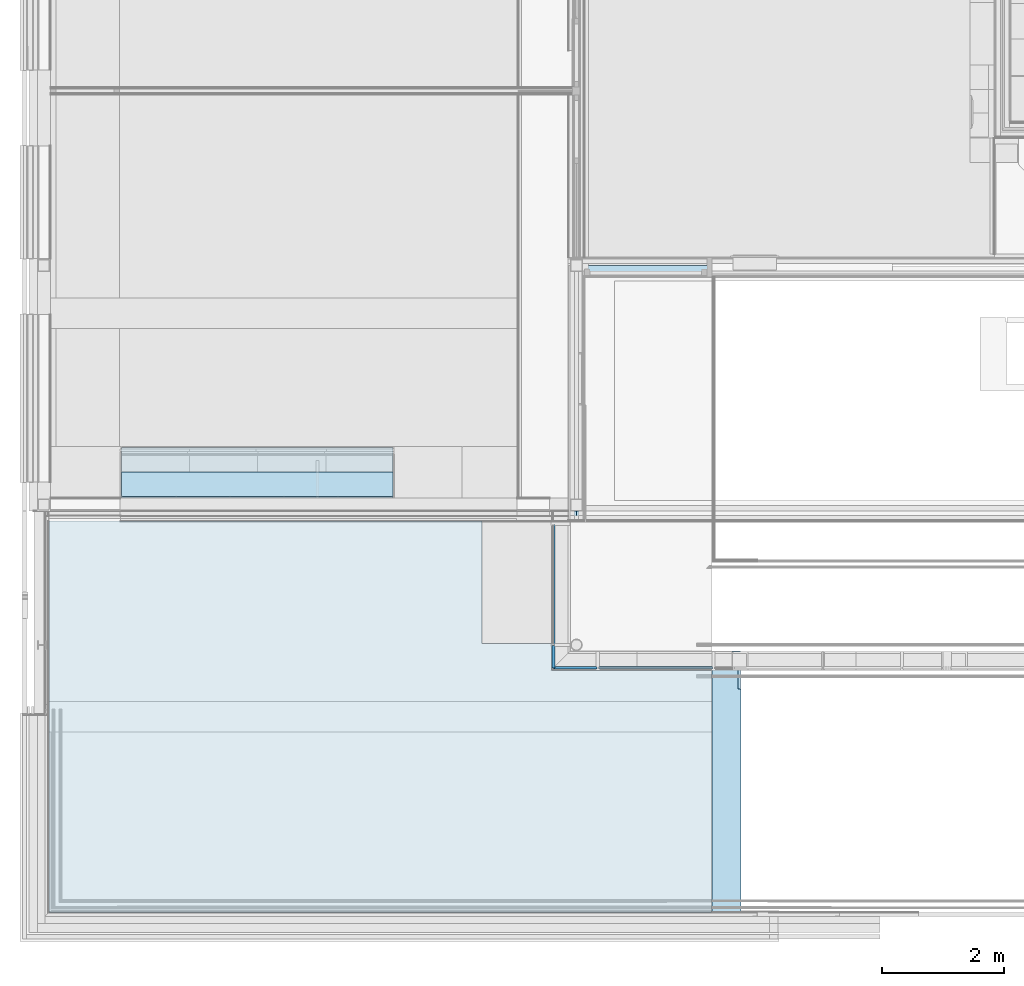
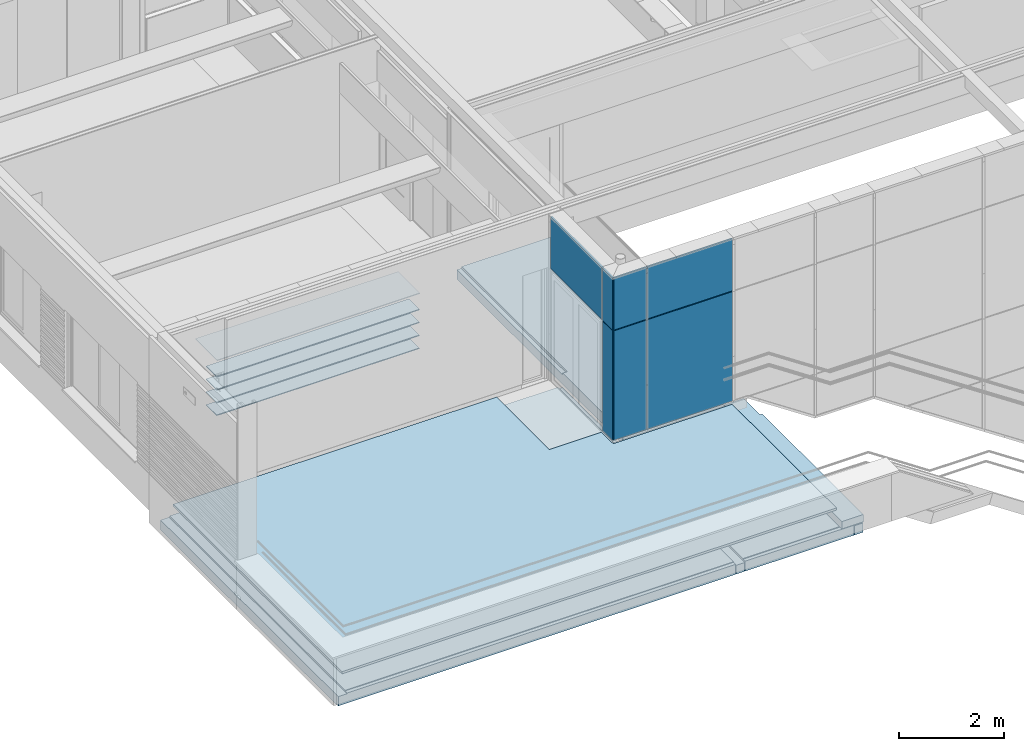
# One storey, part 35 of 137: 9 slabs, 7 plates, 1 element without a shape of its own.
"""IFC2X3 building model written with IfcOpenShell, lengths in millimetres."""

from ifc_helpers import new_model, entity, si_unit, converted_unit, derived_unit, money_unit, direction, frame, origin_with_axes, place, context, subcontext, project, spatial, faceted_brep, material, type_object, element, aggregate, save


model = new_model("IFC2X3")

# Units and contexts
model_context = context("Model", 3, precision=0.01, world=origin_with_axes(), true_north=direction((0.0, 1.0)))
body_context = subcontext(model_context, "Body", "Model", "MODEL_VIEW")
ifc_project = project(units=[si_unit("LENGTHUNIT", "METRE", prefix="MILLI"), si_unit("AREAUNIT", "SQUARE_METRE"), si_unit("VOLUMEUNIT", "CUBIC_METRE"), converted_unit("PLANEANGLEUNIT", "DEGREE", entity("IfcPlaneAngleMeasure", 0.0174532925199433), si_unit("PLANEANGLEUNIT", "RADIAN"), dimensions=[0, 0, 0, 0, 0, 0, 0]), money_unit("EUR"), converted_unit("TIMEUNIT", "Year", entity("IfcTimeMeasure", 31556926.0), si_unit("TIMEUNIT", "SECOND"), dimensions=[0, 0, 1, 0, 0, 0, 0]), si_unit("MASSUNIT", "GRAM", prefix="KILO"), si_unit("THERMODYNAMICTEMPERATUREUNIT", "DEGREE_CELSIUS"), si_unit("LUMINOUSINTENSITYUNIT", "LUMEN"), si_unit("ENERGYUNIT", "JOULE", prefix="MEGA"), derived_unit("THERMALCONDUCTANCEUNIT", [(si_unit("POWERUNIT", "WATT"), 1), (si_unit("LENGTHUNIT", "METRE"), -1), (si_unit("THERMODYNAMICTEMPERATUREUNIT", "KELVIN"), -1)]), derived_unit("SPECIFICHEATCAPACITYUNIT", [(si_unit("ENERGYUNIT", "JOULE"), 1), (si_unit("MASSUNIT", "GRAM", prefix="KILO"), -1), (si_unit("THERMODYNAMICTEMPERATUREUNIT", "KELVIN"), -1)]), derived_unit("MASSDENSITYUNIT", [(si_unit("MASSUNIT", "GRAM", prefix="KILO"), 1), (si_unit("VOLUMEUNIT", "CUBIC_METRE"), -1)])], contexts=[model_context])

# Site, building, storey
site_placement = place(None, origin_with_axes())
site = spatial("IfcSite", under=ifc_project, at=site_placement, Name="Site", CompositionType="ELEMENT")
building_placement = place(site_placement, origin_with_axes())
building = spatial("IfcBuilding", under=site, at=building_placement, Name="Naam gebouw", CompositionType="ELEMENT")
storey_placement = place(building_placement, frame((0.0, 0.0, 3960.0), z_axis=(0.0, 0.0, 1.0), x_axis=(1.0, 0.0, 0.0)))
storey = spatial("IfcBuildingStorey", under=building, at=storey_placement, Name="1e verdieping", CompositionType="ELEMENT", Elevation=3960.0)

# Slabs
ifc_material_1 = material(Name="Beton gewapend prefab vloer")
slab_type_1 = type_object("IfcSlabType", Name="23 Kanaalplaat 260 260", PredefinedType="NOTDEFINED")
slab_1_placement = place(storey_placement, frame((6.893856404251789e-08, 6779.999999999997, -389.9999999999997), z_axis=(0.0, 0.0, 1.0), x_axis=(1.0, 0.0, 0.0)))
element("IfcSlab", 1, at=slab_1_placement, inside=storey, type_object=slab_type_1, material=ifc_material_1, Name="_Vloer-x", PredefinedType="NOTDEFINED", context=body_context, shape_type="Brep", body=[
    faceted_brep([(194.9999999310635, 0.0, -30.00000000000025), (194.9999999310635, 0.0, -259.9999999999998), (4.999999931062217, 0.0, -259.9999999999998), (4.999999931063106, 0.0, -30.00000000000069), (194.999999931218, -6690.000000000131, -246.0000000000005), (194.999999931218, -6690.000000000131, -260.0000000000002), (194.9999999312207, -6770.000000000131, -30.00000000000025), (194.9999999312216, -6770.000000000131, -246.0000000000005), (4.999999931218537, -6690.000000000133, -260.0000000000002), (4.999999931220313, -6770.000000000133, -246.0000000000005), (4.999999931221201, -6770.000000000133, -30.00000000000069), (4.999999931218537, -6690.000000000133, -246.0000000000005)], [[[0, 1, 2, 3]], [[4, 5, 1, 0, 6, 7]], [[1, 5, 8, 2]], [[9, 10, 3, 2, 8, 11]], [[10, 6, 0, 3]], [[5, 4, 11, 8]], [[7, 6, 10, 9]], [[4, 7, 9, 11]]]),
    faceted_brep([(8952.999999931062, -2299.999999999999, 0.0), (8952.999999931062, -6690.000000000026, 0.0), (11348.99999993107, -6689.999999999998, 0.0), (11348.99999993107, -2300.000000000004, 4.341762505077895e-07), (8952.999999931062, -6770.000000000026, -14.00000000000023), (8952.999999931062, -6690.000000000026, -14.00000000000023), (8952.999999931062, -2299.999999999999, -259.9999999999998), (8952.999999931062, -6690.000000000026, -260.0000000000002), (8952.999999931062, -6690.000000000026, -246.0000000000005), (8952.999999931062, -6770.000000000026, -246.0000000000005), (11348.99999993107, -6689.999999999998, -14.00000000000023), (11348.99999993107, -6689.999999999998, -246.0000000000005), (11348.99999993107, -6689.999999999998, -260.0000000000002), (11348.99999993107, -2300.000000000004, -259.9999999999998), (11348.99999993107, -6769.999999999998, -14.00000000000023), (11348.99999993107, -6769.999999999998, -246.0000000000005)], [[[0, 1, 2, 3]], [[4, 5, 1, 0, 6, 7, 8, 9]], [[1, 5, 10, 2]], [[11, 12, 13, 3, 2, 10, 14, 15]], [[6, 0, 3, 13]], [[5, 4, 14, 10]], [[7, 6, 13, 12]], [[8, 7, 12, 11]], [[9, 8, 11, 15]], [[4, 9, 15, 14]]]),
    faceted_brep([(11544.99999993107, -2300.000000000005, -29.99999954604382), (11544.99999993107, -2300.000000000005, -259.9999999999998), (11354.99999993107, -2300.000000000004, -259.9999999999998), (11354.99999993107, -2300.000000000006, -29.99999954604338), (11544.99999993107, -6689.999999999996, -246.0000000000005), (11544.99999993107, -6689.999999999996, -260.0000000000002), (11544.99999993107, -6769.999999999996, -29.99999954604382), (11544.99999993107, -6769.999999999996, -246.0000000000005), (11354.99999993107, -6689.999999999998, -260.0000000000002), (11354.99999993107, -6769.999999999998, -246.0000000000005), (11354.99999993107, -6769.999999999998, -29.99999954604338), (11354.99999993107, -6689.999999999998, -246.0000000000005)], [[[0, 1, 2, 3]], [[4, 5, 1, 0, 6, 7]], [[1, 5, 8, 2]], [[9, 10, 3, 2, 8, 11]], [[10, 6, 0, 3]], [[5, 4, 11, 8]], [[7, 6, 10, 9]], [[4, 7, 9, 11]]]),
    faceted_brep([(8944.999999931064, -6770.000000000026, -229.9999977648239), (8944.999999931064, -6579.999999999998, -229.9999977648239), (8944.999999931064, -6579.999999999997, -260.0000000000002), (8944.999999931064, -2299.999999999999, -259.9999999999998), (8944.999999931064, -2299.999999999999, -40.00000000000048), (8944.999999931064, -6770.000000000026, -40.00000000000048), (8754.99999993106, -6579.999999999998, -229.9999977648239), (8939.99999993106, -6769.999999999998, -229.9999977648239), (8939.99999993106, -6589.999999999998, -229.9999977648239), (8759.99999993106, -6589.999999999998, -229.9999977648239), (8759.99999993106, -6769.999999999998, -229.9999977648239), (8754.999999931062, -6770.00000000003, -229.9999977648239), (8754.999999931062, -6579.999999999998, -260.0000000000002), (8754.999999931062, 0.0, -259.9999999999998), (8850.000073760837, 0.0, -259.9999999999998), (8850.000073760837, -2300.000000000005, -259.9999999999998), (8850.000073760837, -2299.999999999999, -39.99999776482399), (8850.000073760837, 0.0, -39.99999776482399), (8754.99999993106, 0.0, -39.99999776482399), (8754.999999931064, -6770.00000000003, -40.00000000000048), (8939.99999993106, -6769.999999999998, -246.0000000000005), (8759.99999993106, -6769.999999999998, -246.0000000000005), (8939.99999993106, -6690.000000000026, -246.0000000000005), (8939.99999993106, -6690.000000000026, -260.0000000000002), (8939.99999993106, -6589.999999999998, -259.9999999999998), (8759.99999993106, -6589.999999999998, -259.9999999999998), (8759.99999993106, -6690.00000000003, -260.0000000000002), (8759.99999993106, -6690.00000000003, -246.0000000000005)], [[[0, 1, 2, 3, 4, 5]], [[6, 1, 0, 7, 8, 9, 10, 11]], [[12, 2, 1, 6]], [[3, 2, 12, 13, 14, 15]], [[15, 16, 4, 3]], [[5, 4, 16, 17, 18, 19]], [[20, 7, 0, 5, 19, 11, 10, 21]], [[22, 23, 24, 8, 7, 20]], [[8, 24, 25, 9]], [[9, 25, 26, 27, 21, 10]], [[12, 6, 11, 19, 18, 13]], [[17, 14, 13, 18]], [[15, 14, 17, 16]], [[27, 22, 20, 21]], [[26, 23, 22, 27]], [[25, 24, 23, 26]]]),
    faceted_brep([(8746.999999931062, 0.0, 2.23517604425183e-06), (8746.999999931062, 0.0, -259.9999999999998), (200.9999999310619, 0.0, -259.9999999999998), (200.9999999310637, 0.0, 0.0), (8746.999999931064, -6690.00000000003, -246.0000000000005), (8746.999999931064, -6690.00000000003, -260.0000000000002), (8746.999999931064, -6690.00000000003, 0.0), (8746.999999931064, -6690.00000000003, -14.00000000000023), (8746.999999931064, -6770.00000000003, -14.00000000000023), (8746.999999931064, -6770.00000000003, -246.0000000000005), (200.9999999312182, -6690.000000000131, -260.0000000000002), (200.9999999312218, -6770.000000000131, -14.00000000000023), (200.9999999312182, -6690.000000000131, -14.00000000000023), (200.9999999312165, -6690.000000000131, 0.0), (200.9999999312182, -6690.000000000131, -246.0000000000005), (200.9999999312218, -6770.000000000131, -246.0000000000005)], [[[0, 1, 2, 3]], [[4, 5, 1, 0, 6, 7, 8, 9]], [[1, 5, 10, 2]], [[11, 12, 13, 3, 2, 10, 14, 15]], [[6, 0, 3, 13]], [[5, 4, 14, 10]], [[7, 6, 13, 12]], [[8, 7, 12, 11]], [[9, 8, 11, 15]], [[4, 9, 15, 14]]]),
])
ifc_material_2 = material(Name="Hout - Multiplex")
slab_type_2 = type_object("IfcSlabType", Name="Hout - Multiplex 20", PredefinedType="NOTDEFINED")
slab_2_placement = place(storey_placement, frame((5834.000000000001, 7820.99966167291, 2689.999999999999), z_axis=(0.0, 0.0, 1.0), x_axis=(1.0, 0.0, 0.0)))
element("IfcSlab", 2, at=slab_2_placement, inside=storey, type_object=slab_type_2, material=ifc_material_2, Name="i4 In lagen verlijmd hout_Vloer-x", PredefinedType="NOTDEFINED", context=body_context, shape_type="Brep", body=[
    faceted_brep([(0.0, 0.0, 0.0), (0.0, 0.0, -19.99999999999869), (-4460.000000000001, 0.0, -19.99999999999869), (-4460.000000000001, 0.0, 0.0), (0.0, -825.0000000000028, 0.0), (0.0, -825.0000000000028, -19.99999999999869), (-4460.000000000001, -825.0000000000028, -19.99999999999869), (-4460.000000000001, -825.0000000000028, 0.0)], [[[0, 1, 2, 3]], [[4, 5, 1, 0]], [[2, 1, 5, 6]], [[3, 2, 6, 7]], [[4, 0, 3, 7]], [[7, 6, 5, 4]]]),
])
slab_3_placement = place(storey_placement, frame((5833.999999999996, 7415.999661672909, 1699.999999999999), z_axis=(0.0, 0.0, 1.0), x_axis=(1.0, 0.0, 0.0)))
element("IfcSlab", 3, at=slab_3_placement, inside=storey, type_object=slab_type_2, material=ifc_material_2, Name="i4 In lagen verlijmd hout_Vloer-x", PredefinedType="NOTDEFINED", context=body_context, shape_type="Brep", body=[
    faceted_brep([(0.0, 0.0, 0.0), (0.0, 0.0, -19.99999999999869), (-4460.000000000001, 0.0, -19.99999999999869), (-4460.000000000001, 0.0, 0.0), (0.0, -400.0000000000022, 0.0), (0.0, -400.0000000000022, -19.99999999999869), (-4460.000000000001, -400.0000000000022, -19.99999999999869), (-4460.000000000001, -400.0000000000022, 0.0)], [[[0, 1, 2, 3]], [[4, 5, 1, 0]], [[2, 1, 5, 6]], [[3, 2, 6, 7]], [[4, 0, 3, 7]], [[7, 6, 5, 4]]]),
])
for number, where, z_axis, x_axis in (
    (4, (5833.999999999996, 7415.999661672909, 2300.0), (0.0, 0.0, 1.0), (1.0, 0.0, 0.0)),
    (5, (5833.999999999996, 7415.999661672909, 1400.0), (0.0, 0.0, 1.0), (1.0, 0.0, 0.0)),
):
    element("IfcSlab", number, at=place(storey_placement, frame(where, z_axis=z_axis, x_axis=x_axis)), inside=storey, type_object=slab_type_2, material=ifc_material_2, Name="i4 In lagen verlijmd hout_Vloer-x", PredefinedType="NOTDEFINED", context=body_context, shape_type="Brep", body=[
        faceted_brep([(0.0, 0.0, 0.0), (0.0, 0.0, -19.99999999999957), (-4460.000000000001, 0.0, -19.99999999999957), (-4460.000000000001, 0.0, 0.0), (0.0, -400.0000000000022, 0.0), (0.0, -400.0000000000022, -19.99999999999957), (-4460.000000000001, -400.0000000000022, -19.99999999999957), (-4460.000000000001, -400.0000000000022, 0.0)], [[[0, 1, 2, 3]], [[4, 5, 1, 0]], [[2, 1, 5, 6]], [[3, 2, 6, 7]], [[4, 0, 3, 7]], [[7, 6, 5, 4]]]),
    ])
slab_4_placement = place(storey_placement, frame((5833.999999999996, 7415.999661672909, 1999.999999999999), z_axis=(0.0, 0.0, 1.0), x_axis=(1.0, 0.0, 0.0)))
element("IfcSlab", 6, at=slab_4_placement, inside=storey, type_object=slab_type_2, material=ifc_material_2, Name="i4 In lagen verlijmd hout_Vloer-x", PredefinedType="NOTDEFINED", context=body_context, shape_type="Brep", body=[
    faceted_brep([(0.0, 0.0, 0.0), (0.0, 0.0, -19.99999999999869), (-4460.000000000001, 0.0, -19.99999999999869), (-4460.000000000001, 0.0, 0.0), (0.0, -400.0000000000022, 0.0), (0.0, -400.0000000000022, -19.99999999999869), (-4460.000000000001, -400.0000000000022, -19.99999999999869), (-4460.000000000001, -400.0000000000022, 0.0)], [[[0, 1, 2, 3]], [[4, 5, 1, 0]], [[2, 1, 5, 6]], [[3, 2, 6, 7]], [[4, 0, 3, 7]], [[7, 6, 5, 4]]]),
])
ifc_material_3 = material(Name="Beton C")
slab_type_3 = type_object("IfcSlabType", Name="Beton C 50", PredefinedType="NOTDEFINED")
slab_5_placement = place(storey_placement, frame((186.0000000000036, 6611.999999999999, -10.00000000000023), z_axis=(0.0, 0.0, 1.0), x_axis=(1.0, 0.0, 0.0)))
element("IfcSlab", 7, at=slab_5_placement, inside=storey, type_object=slab_type_3, material=ifc_material_3, Name="f2- Met cement gebonden producten (alle vulmiddelen)_Vloer-x", PredefinedType="NOTDEFINED", context=body_context, shape_type="Brep", body=[
    faceted_brep([(0.0, 0.0, 0.0), (0.0, 0.0, -49.99999999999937), (0.0, -6425.999999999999, -49.99999999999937), (0.0, -6425.999999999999, 0.0), (7114.013310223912, 0.0, 0.0), (7114.013310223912, 0.0, -49.99999999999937), (7114.013310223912, -2007.315386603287, -49.99999999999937), (8262.149999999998, -2007.315386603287, -49.99999999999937), (8262.149999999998, -2448.999999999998, -49.99999999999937), (10878.99993002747, -2448.999999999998, -49.99999999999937), (10878.99993002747, -6425.999999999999, -49.99999999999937), (10878.99993002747, -6425.999999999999, 0.0), (10878.99993002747, -2448.999999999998, 0.0), (8262.149999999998, -2448.999999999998, 0.0), (8262.149999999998, -2007.315386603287, 0.0), (7114.013310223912, -2007.315386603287, 0.0)], [[[0, 1, 2, 3]], [[4, 5, 1, 0]], [[2, 1, 5, 6, 7, 8, 9, 10]], [[3, 2, 10, 11]], [[4, 0, 3, 11, 12, 13, 14, 15]], [[15, 6, 5, 4]], [[14, 7, 6, 15]], [[13, 8, 7, 14]], [[12, 9, 8, 13]], [[11, 10, 9, 12]]]),
])
ifc_material_4 = material(Name="Isolatie - Kunststof hard")
slab_type_4 = type_object("IfcSlabType", Name="Isolatie - Kunststof hard 170", PredefinedType="NOTDEFINED")
slab_6_placement = place(storey_placement, frame((11550.00000000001, 0.0, -389.9999999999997), z_axis=(0.0, 0.0, 1.0), x_axis=(1.0, 0.0, 0.0)))
element("IfcSlab", 8, at=slab_6_placement, inside=storey, type_object=slab_type_4, material=ifc_material_4, Name="n7 Kunststof met cellenstructuur_Vloer-x", PredefinedType="NOTDEFINED", context=body_context, shape_type="Brep", body=[
    faceted_brep([(0.0, 3854.000000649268, 0.0), (0.0, 3854.000000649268, 169.9999999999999), (0.0, 0.0, 169.9999999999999), (0.0, 0.0, 0.0), (-47.75988115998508, 3854.000000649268, 0.0), (-47.75988115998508, 3854.000000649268, 169.9999999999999), (-47.75988115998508, 4480.00000000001, 169.9999999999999), (-475.0001426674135, 4480.00000000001, 169.9999999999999), (-475.0001426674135, 0.0, 169.9999999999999), (-475.0001426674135, 0.0, 0.0), (-47.75988115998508, 4480.00000000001, 0.0), (-475.0001426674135, 4480.00000000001, 0.0)], [[[0, 1, 2, 3]], [[4, 5, 1, 0]], [[6, 7, 8, 2, 1, 5]], [[3, 2, 8, 9]], [[10, 4, 0, 3, 9, 11]], [[10, 6, 5, 4]], [[11, 7, 6, 10]], [[9, 8, 7, 11]]]),
])
slab_type_5 = type_object("IfcSlabType", Name="Beton gewapend prefab vloer 260", PredefinedType="NOTDEFINED")
slab_7_placement = place(storey_placement, frame((11075.04559255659, 10810.00011055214, -99.99999999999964), z_axis=(0.0, 0.0, 1.0), x_axis=(1.0, 0.0, 0.0)))
element("IfcSlab", 9, at=slab_7_placement, inside=storey, type_object=slab_type_5, material=ifc_material_1, Name="_Vloer-x", PredefinedType="NOTDEFINED", context=body_context, shape_type="Brep", body=[
    faceted_brep([(-2169.808089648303, -6293.747587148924, 0.0), (-2154.085857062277, -6275.603163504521, 0.0), (-2144.112360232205, -6253.764251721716, 0.0), (-2140.695592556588, -6230.000110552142, 0.0), (-2144.112360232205, -6206.235969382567, 0.0), (-2154.085857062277, -6184.397057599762, 0.0), (-2169.808089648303, -6166.252633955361, 0.0), (-2190.005336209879, -6153.272651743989, 0.0), (-2213.041335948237, -6146.508671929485, 0.0), (-2225.04551879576, -6146.508671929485, 0.0), (-2225.04551879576, -6313.491549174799, 0.0), (-2213.041335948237, -6313.491549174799, 0.0), (-2190.005336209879, -6306.727569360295, 0.0), (-2154.085857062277, -6275.603163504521, -260.0000000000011), (-2169.808089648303, -6293.747587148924, -260.0000000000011), (-2144.112360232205, -6253.764251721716, -260.0000000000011), (-2140.695592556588, -6230.000110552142, -260.0000000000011), (-2144.112360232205, -6206.235969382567, -260.0000000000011), (-2154.085857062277, -6184.397057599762, -260.0000000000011), (-2169.808089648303, -6166.252633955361, -260.0000000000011), (-2190.005336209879, -6153.272651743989, -260.0000000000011), (-2213.041335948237, -6146.508671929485, -260.0000000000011), (-2225.04551879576, -6146.508671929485, -260.0000000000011), (-2225.04551879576, -6313.491549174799, -260.0000000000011), (-2213.041335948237, -6313.491549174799, -260.0000000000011), (-2190.005336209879, -6306.727569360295, -260.0000000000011)], [[[0, 1, 2, 3, 4, 5, 6, 7, 8, 9, 10, 11, 12]], [[13, 1, 0, 14]], [[15, 2, 1, 13]], [[16, 3, 2, 15]], [[17, 4, 3, 16]], [[18, 5, 4, 17]], [[19, 6, 5, 18]], [[20, 7, 6, 19]], [[21, 8, 7, 20]], [[22, 9, 8, 21]], [[22, 23, 10, 9]], [[24, 11, 10, 23]], [[25, 12, 11, 24]], [[14, 0, 12, 25]], [[25, 24, 23, 22, 21, 20, 19, 18, 17, 16, 15, 13, 14]]]),
    faceted_brep([(-2161.622330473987, -6156.805764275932, 0.0), (-2143.570187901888, -6177.639047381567, 0.0), (-2132.118698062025, -6202.714312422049, 0.0), (-2128.195592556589, -6230.000110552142, 0.0), (-2132.118698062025, -6257.285908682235, 0.0), (-2143.570187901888, -6282.361173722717, 0.0), (-2161.622330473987, -6303.194456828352, 0.0), (-2184.812648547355, -6318.097969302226, 0.0), (-2211.26240046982, -6325.86431719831, 0.0), (-2225.04551879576, -6325.86431719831, 0.0), (-2225.04551879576, -6330.000110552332, 0.0), (-90.00000000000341, -6330.000110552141, 0.0), (-89.99999999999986, 0.0, 0.0), (-2122.045592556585, 0.0, 0.0), (-2122.045592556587, -4030.000110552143, 0.0), (-2225.045518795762, -4030.000110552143, 0.0), (-2225.04551879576, -6134.135903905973, 0.0), (-2211.26240046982, -6134.135903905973, 0.0), (-2184.812648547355, -6141.902251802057, 0.0), (-2143.570187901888, -6177.639047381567, -260.0000000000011), (-2161.622330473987, -6156.805764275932, -260.0000000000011), (-2132.118698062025, -6202.714312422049, -260.0000000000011), (-2128.195592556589, -6230.000110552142, -260.0000000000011), (-2132.118698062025, -6257.285908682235, -260.0000000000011), (-2143.570187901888, -6282.361173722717, -260.0000000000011), (-2161.622330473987, -6303.194456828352, -260.0000000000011), (-2184.812648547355, -6318.097969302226, -260.0000000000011), (-2211.26240046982, -6325.86431719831, -260.0000000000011), (-2225.04551879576, -6325.86431719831, -260.0000000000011), (-2225.04551879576, -6330.000110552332, -260.0000000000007), (-10.00000000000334, -6330.000110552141, -214.9999999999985), (-2122.045592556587, -6330.000110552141, -214.9999999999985), (-2122.045592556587, -6330.000110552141, -14.99999999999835), (-10.00000000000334, -6330.000110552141, -14.99999999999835), (-10.00000000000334, -6330.000110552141, -14.00000000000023), (-90.00000000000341, -6330.000110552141, -14.00000000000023), (-90.00000000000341, -6330.000110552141, -260.0000000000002), (-90.00000000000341, -6330.000110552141, -246.0000000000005), (-10.00000000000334, -6330.000110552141, -246.0000000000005), (-89.99999999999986, 0.0, -14.00000000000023), (-89.99999999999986, 0.0, -246.0000000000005), (-89.99999999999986, 0.0, -260.0000000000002), (-2122.045592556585, 0.0, -260.0000000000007), (-9.999999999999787, 0.0, -14.00000000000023), (-9.999999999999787, 0.0, -246.0000000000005), (-2122.045592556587, -4030.000110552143, -260.0000000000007), (-2130.045592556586, -4030.000110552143, -40.00000000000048), (-2225.045518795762, -4030.000110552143, -40.00000000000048), (-2130.045592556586, -4030.000110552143, -260.0000000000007), (-2225.045518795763, 0.0, -260.0000000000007), (-2225.04551879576, -6134.135903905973, -260.0000000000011), (-2225.045518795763, 0.0, -40.00000000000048), (-2211.26240046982, -6134.135903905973, -260.0000000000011), (-2184.812648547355, -6141.902251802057, -260.0000000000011), (-2130.045592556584, 0.0, -260.0000000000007), (-2122.045592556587, -6230.000110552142, -214.9999999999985), (-10.00000000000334, -6230.000110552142, -214.9999999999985), (-2122.045592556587, -6320.000110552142, -204.9999999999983), (-2122.045592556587, -6320.000110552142, -14.99999999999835), (-2122.045592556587, -6230.000110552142, -204.9999999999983), (-10.00000000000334, -6320.000110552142, -14.99999999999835), (-10.00000000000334, -6320.000110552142, -204.9999999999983), (-10.00000000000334, -6230.000110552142, -204.9999999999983), (-2130.045592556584, 0.0, -40.00000000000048)], [[[0, 1, 2, 3, 4, 5, 6, 7, 8, 9, 10, 11, 12, 13, 14, 15, 16, 17, 18]], [[19, 1, 0, 20]], [[21, 2, 1, 19]], [[22, 3, 2, 21]], [[23, 4, 3, 22]], [[24, 5, 4, 23]], [[25, 6, 5, 24]], [[26, 7, 6, 25]], [[27, 8, 7, 26]], [[28, 9, 8, 27]], [[10, 9, 28, 29]], [[30, 31, 32, 33, 34, 35, 11, 10, 29, 36, 37, 38]], [[11, 35, 39, 12]], [[40, 41, 42, 13, 12, 39, 43, 44]], [[45, 14, 13, 42]], [[46, 47, 15, 14, 45, 48]], [[49, 50, 16, 15, 47, 51]], [[52, 17, 16, 50]], [[53, 18, 17, 52]], [[20, 0, 18, 53]], [[53, 52, 50, 49, 54, 48, 45, 42, 41, 36, 29, 28, 27, 26, 25, 24, 23, 22, 21, 19, 20]], [[55, 31, 30, 56]], [[57, 58, 32, 31, 55, 59]], [[32, 58, 60, 33]], [[34, 33, 60, 61, 62, 56, 30, 38, 44, 43]], [[35, 34, 43, 39]], [[37, 36, 41, 40]], [[38, 37, 40, 44]], [[47, 46, 63, 51]], [[46, 48, 54, 63]], [[49, 51, 63, 54]], [[59, 55, 56, 62]], [[58, 57, 61, 60]], [[57, 59, 62, 61]]]),
])

# Curtain wall, plates
curtain_wall_type = type_object("IfcCurtainWallType", Name="Curtain Wall Type", PredefinedType="NOTDEFINED")
curtain_wall_placement = place(storey_placement, frame((8473.014787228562, 4364.43626274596, -3949.999921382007), z_axis=(0.0, 0.0, 1.0), x_axis=(1.0, 0.0, 0.0)))
curtain_wall = element("IfcCurtainWall", 10, at=curtain_wall_placement, inside=storey, type_object=curtain_wall_type, Name="21_Vliesgevel-x")
ifc_material_5 = material(Name="Glas")
plate_type_1 = type_object("IfcPlateType", Name="Main Panel 367 x 1500 x 42", PredefinedType="CURTAIN_PANEL")
plate_1_placement = place(curtain_wall_placement, frame((0.0, 0.0, 5012.142784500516), z_axis=(0.0, 0.0, 1.0), x_axis=(0.0, 1.0, 0.0)))
plate_1 = element("IfcPlate", 11, at=plate_1_placement, type_object=plate_type_1, material=ifc_material_5, Name="o GLAS_Paneel-x", ObjectType="CURTAIN_PANEL", context=body_context, shape_type="Brep", body=[
    faceted_brep([(-161.4362535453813, -20.99999999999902, 1527.857130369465), (205.2483655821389, -20.99999999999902, 1527.857168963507), (205.2483655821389, 21.0000000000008, 1527.857168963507), (-161.4362535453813, 21.0000000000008, 1527.857130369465), (-161.4362535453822, -20.99999999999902, 27.85699611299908), (-161.4362535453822, -20.99999999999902, -1017.142691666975), (205.248365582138, -20.99999999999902, -1017.142691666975), (205.248365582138, -20.99999999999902, 27.85699611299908), (205.248365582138, 21.0000000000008, 27.85699611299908), (205.248365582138, 21.0000000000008, -1017.142691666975), (-161.4362535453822, 21.0000000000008, -1017.142691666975), (-161.4362535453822, 21.0000000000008, 27.85699611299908)], [[[0, 1, 2, 3]], [[0, 4, 5, 6, 7, 1]], [[1, 7, 8, 2]], [[3, 2, 8, 9, 10, 11]], [[4, 0, 3, 11]], [[5, 4, 11, 10]], [[6, 5, 10, 9]], [[7, 6, 9, 8]]]),
])
plate_type_2 = type_object("IfcPlateType", Name="Main Panel 633 x 1500 x 42", PredefinedType="CURTAIN_PANEL")
plate_2_placement = place(curtain_wall_placement, frame((1714.309453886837, -161.43626274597, 5066.111044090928), z_axis=(0.0, 0.0, 1.0), x_axis=(-1.0, 0.0, 0.0)))
plate_2 = element("IfcPlate", 12, at=plate_2_placement, type_object=plate_type_2, material=ifc_material_5, Name="o GLAS_Paneel-x", ObjectType="CURTAIN_PANEL", context=body_context, shape_type="Brep", body=[
    faceted_brep([(-902.6770588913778, -21.00000000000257, 1473.888853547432), (344.3677959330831, -21.00000000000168, 1473.888853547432), (344.3677959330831, 20.99999999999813, 1473.888853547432), (-902.6770588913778, 20.99999999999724, 1473.888853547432), (-902.6770588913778, -21.00000000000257, -26.11127069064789), (-902.6770974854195, -21.00000000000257, -1071.11095149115), (344.3677959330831, -21.00000000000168, -1071.11095149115), (977.3242474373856, -21.00000000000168, -1071.11095149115), (977.3242474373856, -21.00000000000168, -26.11127069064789), (977.3242474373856, -21.00000000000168, 1473.888892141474), (977.3242474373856, 20.99999999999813, 1473.888892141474), (977.3242474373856, 20.99999999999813, -26.11127069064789), (977.3242474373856, 20.99999999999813, -1071.11095149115), (344.3677959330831, 20.99999999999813, -1071.11095149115), (-902.6770974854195, 20.99999999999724, -1071.11095149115), (-902.6770588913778, 20.99999999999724, -26.11127069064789)], [[[0, 1, 2, 3]], [[0, 4, 5, 6, 7, 8, 9, 1]], [[1, 9, 10, 2]], [[3, 2, 10, 11, 12, 13, 14, 15]], [[4, 0, 3, 15]], [[5, 4, 15, 14]], [[6, 5, 14, 13]], [[7, 6, 13, 12]], [[8, 7, 12, 11]], [[9, 8, 11, 10]]]),
])
plate_type_3 = type_object("IfcPlateType", Name="Main Panel 717 x 1500 x 42", PredefinedType="CURTAIN_PANEL")
plate_3_placement = place(curtain_wall_placement, frame((311.5650943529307, -161.4362627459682, 5012.142779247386), z_axis=(0.0, 0.0, 1.0), x_axis=(-1.0, 0.0, 0.0)))
plate_3 = element("IfcPlate", 13, at=plate_3_placement, type_object=plate_type_3, material=ifc_material_5, Name="o GLAS_Paneel-x", ObjectType="CURTAIN_PANEL", context=body_context, shape_type="Brep", body=[
    faceted_brep([(-405.4201191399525, -21.0000000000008, 1527.857156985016), (311.5650943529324, -20.99999999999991, 1527.857156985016), (311.5650943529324, 20.99999999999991, 1527.857156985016), (-405.4201191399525, 20.99999999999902, 1527.857156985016), (-405.4201191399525, -21.0000000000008, 27.85699415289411), (-405.4201191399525, -21.0000000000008, -1017.142686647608), (311.5650943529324, -20.99999999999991, -1017.142686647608), (311.5650943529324, -20.99999999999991, 27.85699415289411), (311.5650943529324, 20.99999999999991, 27.85699415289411), (311.5650943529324, 20.99999999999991, -1017.142686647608), (-405.4201191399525, 20.99999999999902, -1017.142686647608), (-405.4201191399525, 20.99999999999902, 27.85699415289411)], [[[0, 1, 2, 3]], [[0, 4, 5, 6, 7, 1]], [[1, 7, 8, 2]], [[3, 2, 8, 9, 10, 11]], [[4, 0, 3, 11]], [[5, 4, 11, 10]], [[6, 5, 10, 9]], [[7, 6, 9, 8]]]),
])
plate_type_4 = type_object("IfcPlateType", Name="Main Panel 717 x 125 x 42", PredefinedType="CURTAIN_PANEL")
plate_4_placement = place(curtain_wall_placement, frame((363.4926129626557, -161.4362627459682, 7329.999902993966), z_axis=(0.0, 0.0, 1.0), x_axis=(-1.0, 0.0, 0.0)))
plate_4 = element("IfcPlate", 14, at=plate_4_placement, type_object=plate_type_4, material=ifc_material_5, Name="o GLAS_Paneel-x", ObjectType="CURTAIN_PANEL", context=body_context, shape_type="Brep", body=[
    faceted_brep([(-353.4926221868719, -21.0000000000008, 435.0001217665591), (363.4926129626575, -20.99999999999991, 435.0001217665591), (363.4926129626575, 20.99999999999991, 435.0001217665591), (-353.4926221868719, 20.99999999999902, 435.0001217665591), (-353.4926221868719, -21.0000000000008, 309.999869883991), (-353.4926035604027, -21.0000000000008, -769.9999870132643), (363.4926129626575, -20.99999999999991, -769.9999870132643), (363.4926129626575, -20.99999999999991, 309.999869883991), (363.4926129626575, 20.99999999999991, 309.999869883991), (363.4926129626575, 20.99999999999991, -769.9999870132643), (-353.4926035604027, 20.99999999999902, -769.9999870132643), (-353.4926221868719, 20.99999999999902, 309.999869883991)], [[[0, 1, 2, 3]], [[0, 4, 5, 6, 7, 1]], [[1, 7, 8, 2]], [[3, 2, 8, 9, 10, 11]], [[4, 0, 3, 11]], [[5, 4, 11, 10]], [[6, 5, 10, 9]], [[7, 6, 9, 8]]]),
])
plate_type_5 = type_object("IfcPlateType", Name="Main Panel 1969 x 125 x 42", PredefinedType="CURTAIN_PANEL")
plate_5_placement = place(curtain_wall_placement, frame((0.0, 1222.405866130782, 7329.999915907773), z_axis=(0.0, 0.0, 1.0), x_axis=(0.0, 1.0, 0.0)))
plate_5 = element("IfcPlate", 15, at=plate_5_placement, type_object=plate_type_5, material=ifc_material_5, Name="o GLAS_Paneel-x", ObjectType="CURTAIN_PANEL", context=body_context, shape_type="Brep", body=[
    faceted_brep([(-997.1575333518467, -20.99999999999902, 435.0001243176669), (972.1575180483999, -20.99999999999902, 435.0001243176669), (972.1575180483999, 21.00000000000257, 435.0001243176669), (-997.1575333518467, 21.0000000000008, 435.0001243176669), (-997.1575333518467, -20.99999999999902, 309.9998408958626), (-997.1575333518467, -20.99999999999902, -769.9999881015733), (972.1575180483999, -20.99999999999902, -769.9999881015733), (972.1575180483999, -20.99999999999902, 309.9998408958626), (972.1575180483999, 21.00000000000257, 309.9998408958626), (972.1575180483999, 21.00000000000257, -769.9999881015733), (-997.1575333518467, 21.0000000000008, -769.9999881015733), (-997.1575333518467, 21.0000000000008, 309.9998408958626)], [[[0, 1, 2, 3]], [[0, 4, 5, 6, 7, 1]], [[1, 7, 8, 2]], [[3, 2, 8, 9, 10, 11]], [[4, 0, 3, 11]], [[5, 4, 11, 10]], [[6, 5, 10, 9]], [[7, 6, 9, 8]]]),
])
plate_type_6 = type_object("IfcPlateType", Name="Main Panel 633 x 125 x 42", PredefinedType="CURTAIN_PANEL")
plate_6_placement = place(curtain_wall_placement, frame((1600.224819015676, -161.4362627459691, 7291.249918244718), z_axis=(0.0, 0.0, 1.0), x_axis=(-1.0, 0.0, 0.0)))
plate_6 = element("IfcPlate", 16, at=plate_6_placement, type_object=plate_type_6, material=ifc_material_5, Name="o GLAS_Paneel-x", ObjectType="CURTAIN_PANEL", context=body_context, shape_type="Brep", body=[
    faceted_brep([(-1016.7616960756, -21.00000000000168, 473.7500912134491), (230.2831686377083, -21.0000000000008, 473.7500912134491), (230.2831686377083, 20.99999999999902, 473.7500912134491), (-1016.7616960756, 20.99999999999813, 473.7500912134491), (-1016.761724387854, -21.00000000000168, 348.7498521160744), (-1016.7616960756, -21.00000000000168, -731.2500019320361), (230.2831686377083, -21.0000000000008, -731.2500019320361), (863.2395975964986, -21.0000000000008, -731.2500019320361), (863.2395975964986, -21.0000000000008, 348.7498521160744), (863.2395975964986, -21.0000000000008, 473.7500912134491), (863.2395975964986, 20.99999999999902, 473.7500912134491), (863.2395975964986, 20.99999999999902, 348.7498521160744), (863.2395975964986, 20.99999999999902, -731.2500019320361), (230.2831686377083, 20.99999999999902, -731.2500019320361), (-1016.7616960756, 20.99999999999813, -731.2500019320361), (-1016.761724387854, 20.99999999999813, 348.7498521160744)], [[[0, 1, 2, 3]], [[0, 4, 5, 6, 7, 8, 9, 1]], [[1, 9, 10, 2]], [[3, 2, 10, 11, 12, 13, 14, 15]], [[4, 0, 3, 15]], [[5, 4, 15, 14]], [[6, 5, 14, 13]], [[7, 6, 13, 12]], [[8, 7, 12, 11]], [[9, 8, 11, 10]]]),
])
plate_type_7 = type_object("IfcPlateType", Name="Main Panel 367 x 125 x 42", PredefinedType="CURTAIN_PANEL")
plate_7_placement = place(curtain_wall_placement, frame((0.0, 26.90604140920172, 7329.999913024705), z_axis=(0.0, 0.0, 1.0), x_axis=(0.0, 1.0, 0.0)))
plate_7 = element("IfcPlate", 17, at=plate_7_placement, type_object=plate_type_7, material=ifc_material_5, Name="o GLAS_Paneel-x", ObjectType="CURTAIN_PANEL", context=body_context, shape_type="Brep", body=[
    faceted_brep([(-188.3423082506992, -20.99999999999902, 435.0001325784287), (178.3423119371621, -20.99999999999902, 435.0001325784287), (178.3423119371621, 21.0000000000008, 435.0001325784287), (-188.3423082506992, 21.0000000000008, 435.0001325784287), (-188.3423082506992, -20.99999999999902, 309.9998599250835), (-188.3423082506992, -20.99999999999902, -769.9999968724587), (178.3423119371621, -20.99999999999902, -769.9999782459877), (178.3423119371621, -20.99999999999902, 309.9998599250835), (178.3423119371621, 21.0000000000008, 309.9998599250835), (178.3423119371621, 21.0000000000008, -769.9999782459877), (-188.3423082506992, 21.0000000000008, -769.9999968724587), (-188.3423082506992, 21.0000000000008, 309.9998599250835)], [[[0, 1, 2, 3]], [[0, 4, 5, 6, 7, 1]], [[1, 7, 8, 2]], [[3, 2, 8, 9, 10, 11]], [[4, 0, 3, 11]], [[5, 4, 11, 10]], [[6, 5, 10, 9]], [[7, 6, 9, 8]]]),
])
aggregate(curtain_wall, [plate_1, plate_3, plate_2, plate_4, plate_5, plate_6, plate_7])

save(model, "model.ifc")
